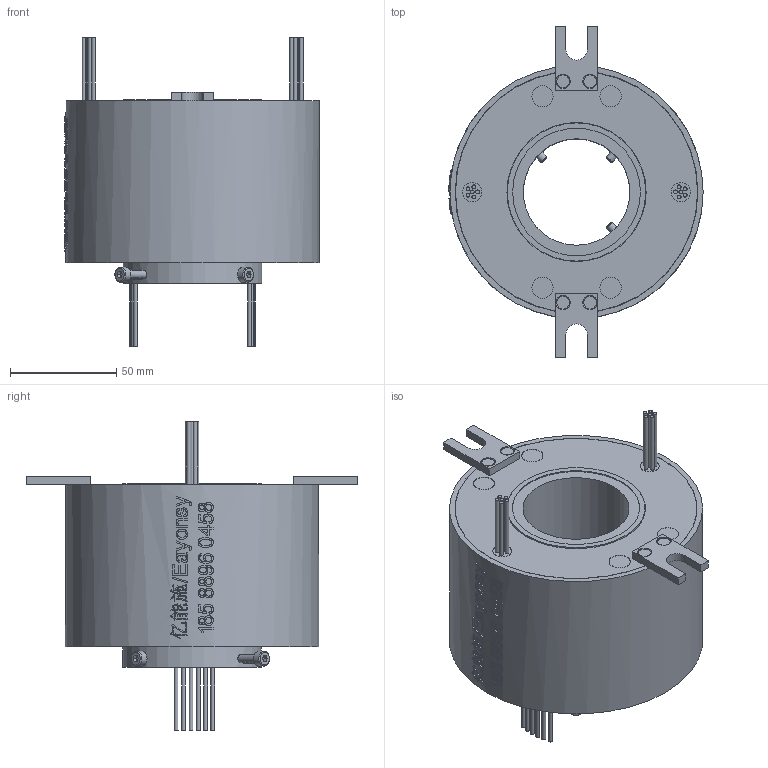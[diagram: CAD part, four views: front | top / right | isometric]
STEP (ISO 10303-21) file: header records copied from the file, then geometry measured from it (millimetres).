
FILE_DESCRIPTION(/* description */ (''),/* implementation_level */ '2;1');
FILE_NAME(/* name */ 'YD50119-1210-3D模型.stp',/* time_stamp */ '2025-09-04T09:05:58+08:00',/* author */ (''),/* organization */ (''),/* preprocessor_version */ 'ST-DEVELOPER v16.7',/* originating_system */ 'SIEMENS PLM Software NX 12.0',/* authorisation */ '');
FILE_SCHEMA (('AUTOMOTIVE_DESIGN { 1 0 10303 214 3 1 1 1 }'));
Length unit declared in the file: millimetre
Products named in the file (1): Admi3138F06C1fu9
Bounding box: 119.5 x 156 x 145.3 mm (x, y, z)
Volume: 717166.6 mm3; surface area: 72041.7 mm2
Topology: 1 solids, 5 shells, 935 faces, 2462 edges, 1639 vertices
Faces by surface type: extrusion 452, plane 342, cylinder 92, bspline 33, cone 12, torus 4
Full cylindrical faces by diameter (mm): 1.8 x24, 3 x4, 3.4 x1, 3.5 x4, 4 x7, 6 x4, 7 x4, 9 x2, 10 x4, 50 x1, 60 x1, 65 x2, 65.4 x1, 113.8 x2, 114 x2, 119 x1
Entity records: 36537 total; most frequent: CARTESIAN_POINT 17102, ORIENTED_EDGE 4708, EDGE_CURVE 2354, DIRECTION 2274, B_SPLINE_CURVE_WITH_KNOTS 2203, VERTEX_POINT 1611, EDGE_LOOP 1131, ADVANCED_FACE 935
